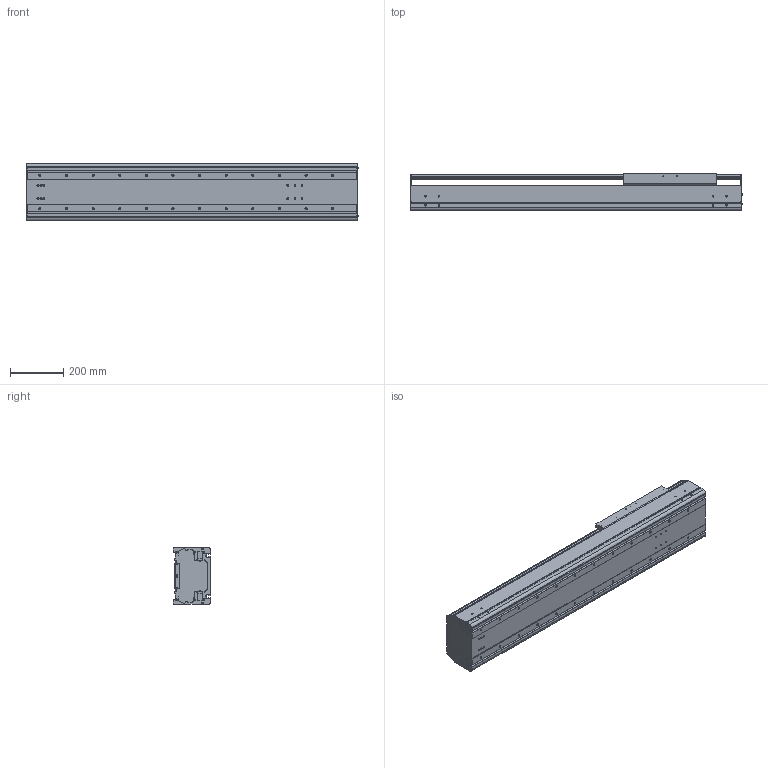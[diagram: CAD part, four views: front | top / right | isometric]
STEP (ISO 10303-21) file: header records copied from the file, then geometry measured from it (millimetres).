
FILE_DESCRIPTION((''),'2;1');
FILE_NAME('BE60G-ST-L_B-75_IGS_PRT','2017-06-18T',(' '),(''),'PRO/ENGINEER BY PARAMETRIC TECHNOLOGY CORPORATION, 2015030','PRO/ENGINEER BY PARAMETRIC TECHNOLOGY CORPORATION, 2015030','');
FILE_SCHEMA(('CONFIG_CONTROL_DESIGN'));
Length unit declared in the file: millimetre
Products named in the file (1): BE60G-ST-L_B-75_IGS_PRT
Bounding box: 1247.4 x 140 x 214 mm (x, y, z)
Volume: 10567313.8 mm3; surface area: 2762249.9 mm2
Topology: 2 solids, 136 shells, 1540 faces, 4278 edges, 2804 vertices
Faces by surface type: cylinder 778, plane 606, cone 108, sphere 24, torus 24
Entity records: 51025 total; most frequent: CARTESIAN_POINT 11325, DIRECTION 8392, ORIENTED_EDGE 7812, EDGE_CURVE 4170, AXIS2_PLACEMENT_3D 3123, VERTEX_POINT 2802, VECTOR 2146, LINE 2146
